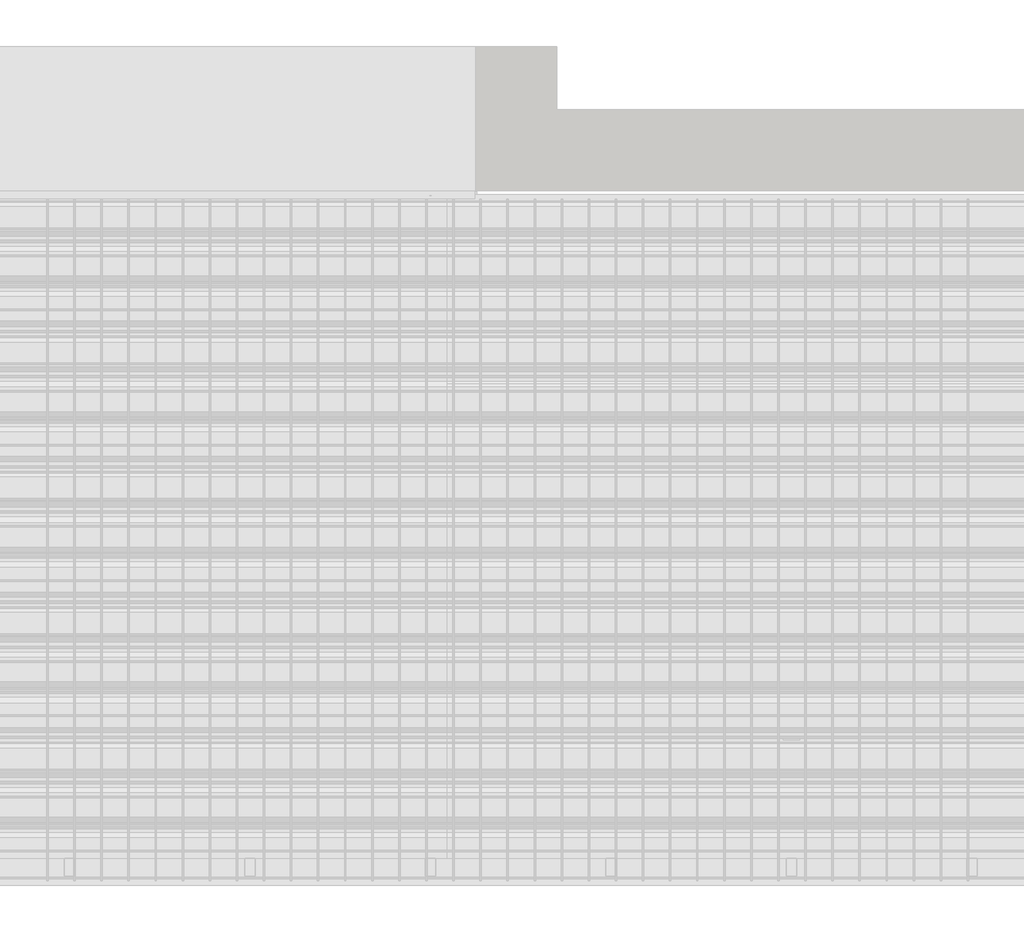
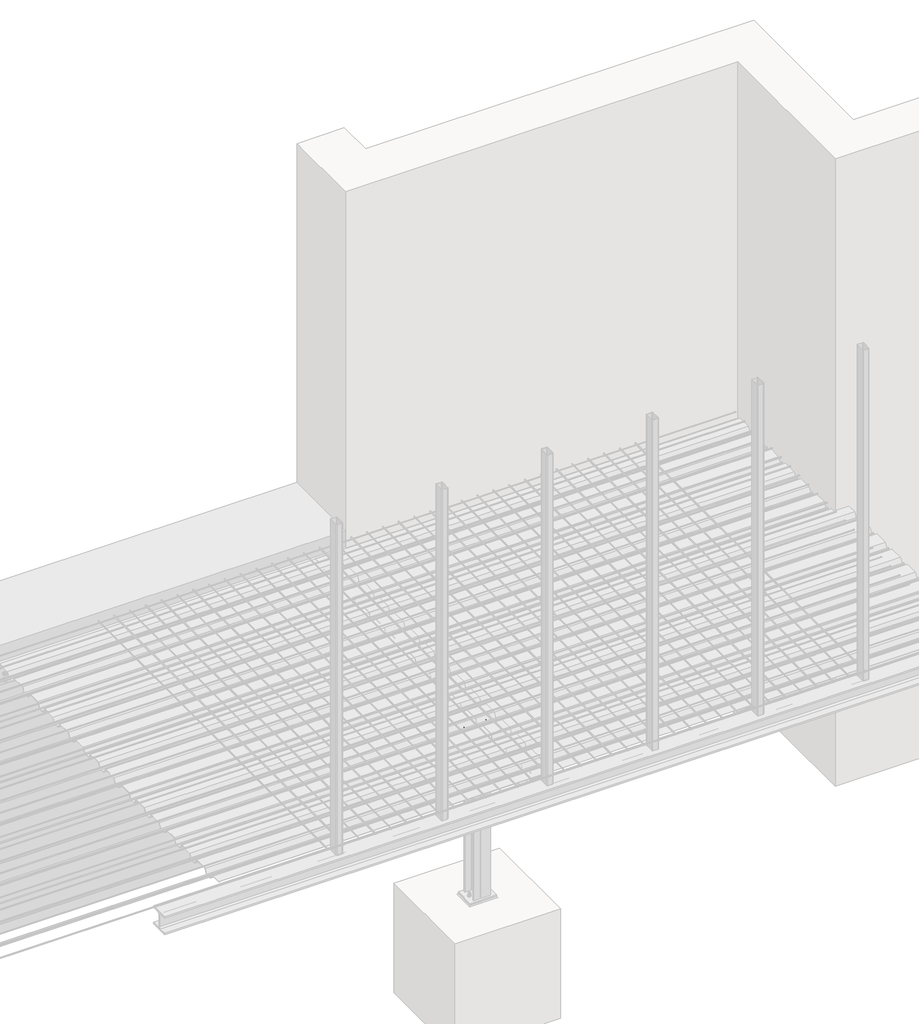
# One storey, part 31 of 36: 3 assemblies.
"""IFC4 building model written with IfcOpenShell, lengths in millimetres."""

from ifc_helpers import new_model, si_unit, point, frame, frame_2d, origin, place, context, project, spatial, polyline, circle_curve, trimmed, segment, composite_curve, outline, extrude, element, save

model = new_model("IFC4")

# Units and contexts
model_context = context("Model", 3, world=origin())
ifc_project = project(units=[si_unit("LENGTHUNIT", "METRE", prefix="MILLI")], contexts=[model_context])

# Site, building, storey
site = spatial("IfcSite", under=ifc_project)
building = spatial("IfcBuilding", under=site)
storey = spatial("IfcBuildingStorey", under=building, Name="Základy", Elevation=-1200.0)

# Assemblies
placement = place(None, origin())
element("IfcElementAssembly", 1, at=placement, inside=storey, context=model_context, shape_type="SweptSolid", body=[
    extrude(outline(composite_curve([segment(polyline([(12073.6, 60.0), (12026.4, 60.0)]), True, "CONTINUOUS"), segment(trimmed(circle_curve(frame_2d((12026.4, 66.4)), 6.4), [point((12026.4, 60.0))], [point((12020.0, 66.4))], False, "CARTESIAN"), True, "CONTINUOUS"), segment(polyline([(12020.0, 66.4), (12020.0, 153.6)]), True, "CONTINUOUS"), segment(trimmed(circle_curve(frame_2d((12026.4, 153.6)), 6.4), [point((12020.0, 153.6))], [point((12026.4, 160.0))], False, "CARTESIAN"), True, "CONTINUOUS"), segment(polyline([(12026.4, 160.0), (12073.6, 160.0)]), True, "CONTINUOUS"), segment(trimmed(circle_curve(frame_2d((12073.6, 153.6)), 6.4), [point((12073.6, 160.0))], [point((12080.0, 153.6))], False, "CARTESIAN"), True, "CONTINUOUS"), segment(polyline([(12080.0, 153.6), (12080.0, 66.4)]), True, "CONTINUOUS"), segment(trimmed(circle_curve(frame_2d((12073.6, 66.4)), 6.4), [point((12080.0, 66.4))], [point((12073.6, 60.0))], False, "CARTESIAN"), True, "CONTINUOUS")], self_intersect=False), holes=[composite_curve([segment(trimmed(circle_curve(frame_2d((12073.6, 66.4)), 3.2), [point((12073.6, 63.2))], [point((12076.8, 66.4))], True, "CARTESIAN"), True, "CONTINUOUS"), segment(polyline([(12076.8, 66.4), (12076.8, 153.6)]), True, "CONTINUOUS"), segment(trimmed(circle_curve(frame_2d((12073.6, 153.6)), 3.2), [point((12076.8, 153.6))], [point((12073.6, 156.8))], True, "CARTESIAN"), True, "CONTINUOUS"), segment(polyline([(12073.6, 156.8), (12026.4, 156.8)]), True, "CONTINUOUS"), segment(trimmed(circle_curve(frame_2d((12026.4, 153.6)), 3.2), [point((12026.4, 156.8))], [point((12023.2, 153.6))], True, "CARTESIAN"), True, "CONTINUOUS"), segment(polyline([(12023.2, 153.6), (12023.2, 66.4)]), True, "CONTINUOUS"), segment(trimmed(circle_curve(frame_2d((12026.4, 66.4)), 3.2), [point((12023.2, 66.4))], [point((12026.4, 63.2))], True, "CARTESIAN"), True, "CONTINUOUS"), segment(polyline([(12026.4, 63.2), (12073.6, 63.2)]), True, "CONTINUOUS")], self_intersect=False)]), frame((0.0, 0.0, -160.0), z_axis=(0.0, 0.0, 1.0), x_axis=(1.0, 0.0, 0.0)), (0.0, 0.0, 1.0), 3320.0),
])
element("IfcElementAssembly", 2, at=placement, inside=storey, context=model_context, shape_type="SweptSolid", body=[
    extrude(outline(composite_curve([segment(polyline([(13073.6, 60.0), (13026.4, 60.0)]), True, "CONTINUOUS"), segment(trimmed(circle_curve(frame_2d((13026.4, 66.4)), 6.4), [point((13026.4, 60.0))], [point((13020.0, 66.4))], False, "CARTESIAN"), True, "CONTINUOUS"), segment(polyline([(13020.0, 66.4), (13020.0, 153.6)]), True, "CONTINUOUS"), segment(trimmed(circle_curve(frame_2d((13026.4, 153.6)), 6.4), [point((13020.0, 153.6))], [point((13026.4, 160.0))], False, "CARTESIAN"), True, "CONTINUOUS"), segment(polyline([(13026.4, 160.0), (13073.6, 160.0)]), True, "CONTINUOUS"), segment(trimmed(circle_curve(frame_2d((13073.6, 153.6)), 6.4), [point((13073.6, 160.0))], [point((13080.0, 153.6))], False, "CARTESIAN"), True, "CONTINUOUS"), segment(polyline([(13080.0, 153.6), (13080.0, 66.4)]), True, "CONTINUOUS"), segment(trimmed(circle_curve(frame_2d((13073.6, 66.4)), 6.4), [point((13080.0, 66.4))], [point((13073.6, 60.0))], False, "CARTESIAN"), True, "CONTINUOUS")], self_intersect=False), holes=[composite_curve([segment(trimmed(circle_curve(frame_2d((13073.6, 66.4)), 3.2), [point((13073.6, 63.2))], [point((13076.8, 66.4))], True, "CARTESIAN"), True, "CONTINUOUS"), segment(polyline([(13076.8, 66.4), (13076.8, 153.6)]), True, "CONTINUOUS"), segment(trimmed(circle_curve(frame_2d((13073.6, 153.6)), 3.2), [point((13076.8, 153.6))], [point((13073.6, 156.8))], True, "CARTESIAN"), True, "CONTINUOUS"), segment(polyline([(13073.6, 156.8), (13026.4, 156.8)]), True, "CONTINUOUS"), segment(trimmed(circle_curve(frame_2d((13026.4, 153.6)), 3.2), [point((13026.4, 156.8))], [point((13023.2, 153.6))], True, "CARTESIAN"), True, "CONTINUOUS"), segment(polyline([(13023.2, 153.6), (13023.2, 66.4)]), True, "CONTINUOUS"), segment(trimmed(circle_curve(frame_2d((13026.4, 66.4)), 3.2), [point((13023.2, 66.4))], [point((13026.4, 63.2))], True, "CARTESIAN"), True, "CONTINUOUS"), segment(polyline([(13026.4, 63.2), (13073.6, 63.2)]), True, "CONTINUOUS")], self_intersect=False)]), frame((0.0, 0.0, -160.0), z_axis=(0.0, 0.0, 1.0), x_axis=(1.0, 0.0, 0.0)), (0.0, 0.0, 1.0), 3320.0),
])
element("IfcElementAssembly", 3, at=placement, inside=storey, context=model_context, shape_type="SweptSolid", body=[
    extrude(outline(composite_curve([segment(polyline([(-340.0, 12140.0), (-326.0, 12140.0), (-326.0, 12069.25)]), True, "CONTINUOUS"), segment(trimmed(circle_curve(frame_2d((-311.0, 12069.25)), 15.0), [point((-326.0, 12069.25))], [point((-311.0, 12054.25))], True, "CARTESIAN"), True, "CONTINUOUS"), segment(polyline([(-311.0, 12054.25), (-189.0, 12054.25)]), True, "CONTINUOUS"), segment(trimmed(circle_curve(frame_2d((-189.0, 12069.25)), 15.0), [point((-189.0, 12054.25))], [point((-174.0, 12069.25))], True, "CARTESIAN"), True, "CONTINUOUS"), segment(polyline([(-174.0, 12069.25), (-174.0, 12140.0), (-160.0, 12140.0), (-160.0, 11960.0), (-174.0, 11960.0), (-174.0, 12030.75)]), True, "CONTINUOUS"), segment(trimmed(circle_curve(frame_2d((-189.0, 12030.75)), 15.0), [point((-174.0, 12030.75))], [point((-189.0, 12045.75))], True, "CARTESIAN"), True, "CONTINUOUS"), segment(polyline([(-189.0, 12045.75), (-311.0, 12045.75)]), True, "CONTINUOUS"), segment(trimmed(circle_curve(frame_2d((-311.0, 12030.75)), 15.0), [point((-311.0, 12045.75))], [point((-326.0, 12030.75))], True, "CARTESIAN"), True, "CONTINUOUS"), segment(polyline([(-326.0, 12030.75), (-326.0, 11960.0), (-340.0, 11960.0), (-340.0, 12140.0)]), True, "CONTINUOUS")], self_intersect=False)), frame((0.0, 210.0, 0.0), z_axis=(0.0, 1.0, 0.0), x_axis=(0.0, 0.0, 1.0)), (0.0, 0.0, 1.0), 3557.0),
    extrude(outline(polyline([(11960.0, 3775.0), (12140.0, 3775.0), (12140.0, 3767.0), (11960.0, 3767.0), (11960.0, 3775.0)])), frame((0.0, 0.0, -316.0), z_axis=(0.0, 0.0, 1.0), x_axis=(1.0, 0.0, 0.0)), (0.0, 0.0, 1.0), 132.0),
    extrude(outline(polyline([(11950.0, 1200.0), (11950.0, 1320.0), (11960.0, 1320.0), (11960.0, 1200.0), (11950.0, 1200.0)])), frame((0.0, 0.0, -332.0), z_axis=(0.0, 0.0, 1.0), x_axis=(1.0, 0.0, 0.0)), (0.0, 0.0, 1.0), 164.0),
    extrude(outline(polyline([(12140.0, 1170.0), (12140.0, 1350.0), (12150.0, 1350.0), (12150.0, 1170.0), (12140.0, 1170.0)])), frame((0.0, 0.0, -332.0), z_axis=(0.0, 0.0, 1.0), x_axis=(1.0, 0.0, 0.0)), (0.0, 0.0, 1.0), 164.0),
    extrude(outline(composite_curve([segment(polyline([(-174.0, 12140.0), (-174.0, 12079.5)]), True, "CONTINUOUS"), segment(trimmed(circle_curve(frame_2d((-174.0, 12054.5)), 25.0), [point((-174.0, 12079.5))], [point((-199.0, 12054.5))], True, "CARTESIAN"), True, "CONTINUOUS"), segment(polyline([(-199.0, 12054.5), (-301.0, 12054.5)]), True, "CONTINUOUS"), segment(trimmed(circle_curve(frame_2d((-326.0, 12054.5)), 25.0), [point((-301.0, 12054.5))], [point((-326.0, 12079.5))], True, "CARTESIAN"), True, "CONTINUOUS"), segment(polyline([(-326.0, 12079.5), (-326.0, 12140.0), (-174.0, 12140.0)]), True, "CONTINUOUS")], self_intersect=False)), frame((0.0, 1256.0, 0.0), z_axis=(0.0, 1.0, 0.0), x_axis=(0.0, 0.0, 1.0)), (0.0, 0.0, 1.0), 8.0),
    extrude(outline(composite_curve([segment(polyline([(-174.0, 11960.0), (-326.0, 11960.0), (-326.0, 12020.5)]), True, "CONTINUOUS"), segment(trimmed(circle_curve(frame_2d((-326.0, 12045.5)), 25.0), [point((-326.0, 12020.5))], [point((-301.0, 12045.5))], True, "CARTESIAN"), True, "CONTINUOUS"), segment(polyline([(-301.0, 12045.5), (-199.0, 12045.5)]), True, "CONTINUOUS"), segment(trimmed(circle_curve(frame_2d((-174.0, 12045.5)), 25.0), [point((-199.0, 12045.5))], [point((-174.0, 12020.5))], True, "CARTESIAN"), True, "CONTINUOUS"), segment(polyline([(-174.0, 12020.5), (-174.0, 11960.0)]), True, "CONTINUOUS")], self_intersect=False)), frame((0.0, 1256.0, 0.0), z_axis=(0.0, 1.0, 0.0), x_axis=(0.0, 0.0, 1.0)), (0.0, 0.0, 1.0), 8.0),
    extrude(outline(polyline([(11960.0, 210.0), (12140.0, 210.0), (12140.0, 200.0), (11960.0, 200.0), (11960.0, 210.0)])), frame((0.0, 0.0, -332.0), z_axis=(0.0, 0.0, 1.0), x_axis=(1.0, 0.0, 0.0)), (0.0, 0.0, 1.0), 164.0),
    extrude(outline(composite_curve([segment(trimmed(circle_curve(frame_2d((1230.0, -225.0)), 6.5), [point((1230.0, -231.5))], [point((1230.0, -218.5))], False, "CARTESIAN"), True, "CONTINUOUS"), segment(trimmed(circle_curve(frame_2d((1230.0, -225.0)), 6.5), [point((1230.0, -218.5))], [point((1230.0, -231.5))], False, "CARTESIAN"), True, "CONTINUOUS")], self_intersect=False)), frame((11949.9, 0.0, 0.0), z_axis=(1.0, 0.0, 0.0), x_axis=(0.0, 1.0, 0.0)), (0.0, 0.0, 1.0), 10.0),
    extrude(outline(polyline([(1230.0, -235.3923048), (1221.0, -230.1961524), (1221.0, -219.8038476), (1230.0, -214.6076952), (1239.0, -219.8038476), (1239.0, -230.1961524), (1230.0, -235.3923048)])), frame((11962.5, 0.0, 0.0), z_axis=(1.0, 0.0, 0.0), x_axis=(0.0, 1.0, 0.0)), (0.0, 0.0, 1.0), 7.5),
    extrude(outline(composite_curve([segment(trimmed(circle_curve(frame_2d((1230.0, -225.0)), 6.0), [point((1230.0, -231.0))], [point((1230.0, -219.0))], False, "CARTESIAN"), True, "CONTINUOUS"), segment(trimmed(circle_curve(frame_2d((1230.0, -225.0)), 6.0), [point((1230.0, -219.0))], [point((1230.0, -231.0))], False, "CARTESIAN"), True, "CONTINUOUS")], self_intersect=False)), frame((11922.5, 0.0, 0.0), z_axis=(1.0, 0.0, 0.0), x_axis=(0.0, 1.0, 0.0)), (0.0, 0.0, 1.0), 40.0),
    extrude(outline(composite_curve([segment(trimmed(circle_curve(frame_2d((1230.0, -225.0)), 12.0), [point((1230.0, -237.0))], [point((1230.0, -213.0))], False, "CARTESIAN"), True, "CONTINUOUS"), segment(trimmed(circle_curve(frame_2d((1230.0, -225.0)), 12.0), [point((1230.0, -213.0))], [point((1230.0, -237.0))], False, "CARTESIAN"), True, "CONTINUOUS")], self_intersect=False)), frame((11960.0, 0.0, 0.0), z_axis=(1.0, 0.0, 0.0), x_axis=(0.0, 1.0, 0.0)), (0.0, 0.0, 1.0), 2.5),
    extrude(outline(composite_curve([segment(trimmed(circle_curve(frame_2d((1230.0, -225.0)), 12.0), [point((1230.0, -237.0))], [point((1230.0, -213.0))], False, "CARTESIAN"), True, "CONTINUOUS"), segment(trimmed(circle_curve(frame_2d((1230.0, -225.0)), 12.0), [point((1230.0, -213.0))], [point((1230.0, -237.0))], False, "CARTESIAN"), True, "CONTINUOUS")], self_intersect=False)), frame((11937.5, 0.0, 0.0), z_axis=(1.0, 0.0, 0.0), x_axis=(0.0, 1.0, 0.0)), (0.0, 0.0, 1.0), 2.5),
    extrude(outline(polyline([(1230.0, -235.9696551), (1220.5, -230.4848276), (1220.5, -219.5151724), (1230.0, -214.0303449), (1239.5, -219.5151724), (1239.5, -230.4848276), (1230.0, -235.9696551)])), frame((11927.5, 0.0, 0.0), z_axis=(1.0, 0.0, 0.0), x_axis=(0.0, 1.0, 0.0)), (0.0, 0.0, 1.0), 10.0),
    extrude(outline(composite_curve([segment(trimmed(circle_curve(frame_2d((1230.0, -225.0)), 6.5), [point((1230.0, -231.5))], [point((1230.0, -218.5))], False, "CARTESIAN"), True, "CONTINUOUS"), segment(trimmed(circle_curve(frame_2d((1230.0, -225.0)), 6.5), [point((1230.0, -218.5))], [point((1230.0, -231.5))], False, "CARTESIAN"), True, "CONTINUOUS")], self_intersect=False)), frame((11940.0, 0.0, 0.0), z_axis=(1.0, 0.0, 0.0), x_axis=(0.0, 1.0, 0.0)), (0.0, 0.0, 1.0), 10.1),
    extrude(outline(composite_curve([segment(trimmed(circle_curve(frame_2d((1230.0, -275.0)), 6.5), [point((1230.0, -281.5))], [point((1230.0, -268.5))], False, "CARTESIAN"), True, "CONTINUOUS"), segment(trimmed(circle_curve(frame_2d((1230.0, -275.0)), 6.5), [point((1230.0, -268.5))], [point((1230.0, -281.5))], False, "CARTESIAN"), True, "CONTINUOUS")], self_intersect=False)), frame((11949.9, 0.0, 0.0), z_axis=(1.0, 0.0, 0.0), x_axis=(0.0, 1.0, 0.0)), (0.0, 0.0, 1.0), 10.0),
    extrude(outline(polyline([(1230.0, -285.3923048), (1221.0, -280.1961524), (1221.0, -269.8038476), (1230.0, -264.6076952), (1239.0, -269.8038476), (1239.0, -280.1961524), (1230.0, -285.3923048)])), frame((11962.5, 0.0, 0.0), z_axis=(1.0, 0.0, 0.0), x_axis=(0.0, 1.0, 0.0)), (0.0, 0.0, 1.0), 7.5),
    extrude(outline(composite_curve([segment(trimmed(circle_curve(frame_2d((1230.0, -275.0)), 6.0), [point((1230.0, -281.0))], [point((1230.0, -269.0))], False, "CARTESIAN"), True, "CONTINUOUS"), segment(trimmed(circle_curve(frame_2d((1230.0, -275.0)), 6.0), [point((1230.0, -269.0))], [point((1230.0, -281.0))], False, "CARTESIAN"), True, "CONTINUOUS")], self_intersect=False)), frame((11922.5, 0.0, 0.0), z_axis=(1.0, 0.0, 0.0), x_axis=(0.0, 1.0, 0.0)), (0.0, 0.0, 1.0), 40.0),
    extrude(outline(composite_curve([segment(trimmed(circle_curve(frame_2d((1230.0, -275.0)), 12.0), [point((1230.0, -287.0))], [point((1230.0, -263.0))], False, "CARTESIAN"), True, "CONTINUOUS"), segment(trimmed(circle_curve(frame_2d((1230.0, -275.0)), 12.0), [point((1230.0, -263.0))], [point((1230.0, -287.0))], False, "CARTESIAN"), True, "CONTINUOUS")], self_intersect=False)), frame((11960.0, 0.0, 0.0), z_axis=(1.0, 0.0, 0.0), x_axis=(0.0, 1.0, 0.0)), (0.0, 0.0, 1.0), 2.5),
    extrude(outline(composite_curve([segment(trimmed(circle_curve(frame_2d((1230.0, -275.0)), 12.0), [point((1230.0, -287.0))], [point((1230.0, -263.0))], False, "CARTESIAN"), True, "CONTINUOUS"), segment(trimmed(circle_curve(frame_2d((1230.0, -275.0)), 12.0), [point((1230.0, -263.0))], [point((1230.0, -287.0))], False, "CARTESIAN"), True, "CONTINUOUS")], self_intersect=False)), frame((11937.5, 0.0, 0.0), z_axis=(1.0, 0.0, 0.0), x_axis=(0.0, 1.0, 0.0)), (0.0, 0.0, 1.0), 2.5),
    extrude(outline(polyline([(1230.0, -285.9696551), (1220.5, -280.4848276), (1220.5, -269.5151724), (1230.0, -264.0303449), (1239.5, -269.5151724), (1239.5, -280.4848276), (1230.0, -285.9696551)])), frame((11927.5, 0.0, 0.0), z_axis=(1.0, 0.0, 0.0), x_axis=(0.0, 1.0, 0.0)), (0.0, 0.0, 1.0), 10.0),
    extrude(outline(composite_curve([segment(trimmed(circle_curve(frame_2d((1230.0, -275.0)), 6.5), [point((1230.0, -281.5))], [point((1230.0, -268.5))], False, "CARTESIAN"), True, "CONTINUOUS"), segment(trimmed(circle_curve(frame_2d((1230.0, -275.0)), 6.5), [point((1230.0, -268.5))], [point((1230.0, -281.5))], False, "CARTESIAN"), True, "CONTINUOUS")], self_intersect=False)), frame((11940.0, 0.0, 0.0), z_axis=(1.0, 0.0, 0.0), x_axis=(0.0, 1.0, 0.0)), (0.0, 0.0, 1.0), 10.1),
    extrude(outline(composite_curve([segment(trimmed(circle_curve(frame_2d((1290.0, -225.0)), 6.5), [point((1290.0, -231.5))], [point((1290.0, -218.5))], False, "CARTESIAN"), True, "CONTINUOUS"), segment(trimmed(circle_curve(frame_2d((1290.0, -225.0)), 6.5), [point((1290.0, -218.5))], [point((1290.0, -231.5))], False, "CARTESIAN"), True, "CONTINUOUS")], self_intersect=False)), frame((11949.9, 0.0, 0.0), z_axis=(1.0, 0.0, 0.0), x_axis=(0.0, 1.0, 0.0)), (0.0, 0.0, 1.0), 10.0),
    extrude(outline(polyline([(1290.0, -235.3923048), (1281.0, -230.1961524), (1281.0, -219.8038476), (1290.0, -214.6076952), (1299.0, -219.8038476), (1299.0, -230.1961524), (1290.0, -235.3923048)])), frame((11962.5, 0.0, 0.0), z_axis=(1.0, 0.0, 0.0), x_axis=(0.0, 1.0, 0.0)), (0.0, 0.0, 1.0), 7.5),
    extrude(outline(composite_curve([segment(trimmed(circle_curve(frame_2d((1290.0, -225.0)), 6.0), [point((1290.0, -231.0))], [point((1290.0, -219.0))], False, "CARTESIAN"), True, "CONTINUOUS"), segment(trimmed(circle_curve(frame_2d((1290.0, -225.0)), 6.0), [point((1290.0, -219.0))], [point((1290.0, -231.0))], False, "CARTESIAN"), True, "CONTINUOUS")], self_intersect=False)), frame((11922.5, 0.0, 0.0), z_axis=(1.0, 0.0, 0.0), x_axis=(0.0, 1.0, 0.0)), (0.0, 0.0, 1.0), 40.0),
    extrude(outline(composite_curve([segment(trimmed(circle_curve(frame_2d((1290.0, -225.0)), 12.0), [point((1290.0, -237.0))], [point((1290.0, -213.0))], False, "CARTESIAN"), True, "CONTINUOUS"), segment(trimmed(circle_curve(frame_2d((1290.0, -225.0)), 12.0), [point((1290.0, -213.0))], [point((1290.0, -237.0))], False, "CARTESIAN"), True, "CONTINUOUS")], self_intersect=False)), frame((11960.0, 0.0, 0.0), z_axis=(1.0, 0.0, 0.0), x_axis=(0.0, 1.0, 0.0)), (0.0, 0.0, 1.0), 2.5),
    extrude(outline(composite_curve([segment(trimmed(circle_curve(frame_2d((1290.0, -225.0)), 12.0), [point((1290.0, -237.0))], [point((1290.0, -213.0))], False, "CARTESIAN"), True, "CONTINUOUS"), segment(trimmed(circle_curve(frame_2d((1290.0, -225.0)), 12.0), [point((1290.0, -213.0))], [point((1290.0, -237.0))], False, "CARTESIAN"), True, "CONTINUOUS")], self_intersect=False)), frame((11937.5, 0.0, 0.0), z_axis=(1.0, 0.0, 0.0), x_axis=(0.0, 1.0, 0.0)), (0.0, 0.0, 1.0), 2.5),
    extrude(outline(polyline([(1290.0, -235.9696551), (1280.5, -230.4848276), (1280.5, -219.5151724), (1290.0, -214.0303449), (1299.5, -219.5151724), (1299.5, -230.4848276), (1290.0, -235.9696551)])), frame((11927.5, 0.0, 0.0), z_axis=(1.0, 0.0, 0.0), x_axis=(0.0, 1.0, 0.0)), (0.0, 0.0, 1.0), 10.0),
    extrude(outline(composite_curve([segment(trimmed(circle_curve(frame_2d((1290.0, -225.0)), 6.5), [point((1290.0, -231.5))], [point((1290.0, -218.5))], False, "CARTESIAN"), True, "CONTINUOUS"), segment(trimmed(circle_curve(frame_2d((1290.0, -225.0)), 6.5), [point((1290.0, -218.5))], [point((1290.0, -231.5))], False, "CARTESIAN"), True, "CONTINUOUS")], self_intersect=False)), frame((11940.0, 0.0, 0.0), z_axis=(1.0, 0.0, 0.0), x_axis=(0.0, 1.0, 0.0)), (0.0, 0.0, 1.0), 10.1),
    extrude(outline(composite_curve([segment(trimmed(circle_curve(frame_2d((1290.0, -275.0)), 6.5), [point((1290.0, -281.5))], [point((1290.0, -268.5))], False, "CARTESIAN"), True, "CONTINUOUS"), segment(trimmed(circle_curve(frame_2d((1290.0, -275.0)), 6.5), [point((1290.0, -268.5))], [point((1290.0, -281.5))], False, "CARTESIAN"), True, "CONTINUOUS")], self_intersect=False)), frame((11949.9, 0.0, 0.0), z_axis=(1.0, 0.0, 0.0), x_axis=(0.0, 1.0, 0.0)), (0.0, 0.0, 1.0), 10.0),
    extrude(outline(polyline([(1290.0, -285.3923048), (1281.0, -280.1961524), (1281.0, -269.8038476), (1290.0, -264.6076952), (1299.0, -269.8038476), (1299.0, -280.1961524), (1290.0, -285.3923048)])), frame((11962.5, 0.0, 0.0), z_axis=(1.0, 0.0, 0.0), x_axis=(0.0, 1.0, 0.0)), (0.0, 0.0, 1.0), 7.5),
    extrude(outline(composite_curve([segment(trimmed(circle_curve(frame_2d((1290.0, -275.0)), 6.0), [point((1290.0, -281.0))], [point((1290.0, -269.0))], False, "CARTESIAN"), True, "CONTINUOUS"), segment(trimmed(circle_curve(frame_2d((1290.0, -275.0)), 6.0), [point((1290.0, -269.0))], [point((1290.0, -281.0))], False, "CARTESIAN"), True, "CONTINUOUS")], self_intersect=False)), frame((11922.5, 0.0, 0.0), z_axis=(1.0, 0.0, 0.0), x_axis=(0.0, 1.0, 0.0)), (0.0, 0.0, 1.0), 40.0),
    extrude(outline(composite_curve([segment(trimmed(circle_curve(frame_2d((1290.0, -275.0)), 12.0), [point((1290.0, -287.0))], [point((1290.0, -263.0))], False, "CARTESIAN"), True, "CONTINUOUS"), segment(trimmed(circle_curve(frame_2d((1290.0, -275.0)), 12.0), [point((1290.0, -263.0))], [point((1290.0, -287.0))], False, "CARTESIAN"), True, "CONTINUOUS")], self_intersect=False)), frame((11960.0, 0.0, 0.0), z_axis=(1.0, 0.0, 0.0), x_axis=(0.0, 1.0, 0.0)), (0.0, 0.0, 1.0), 2.5),
    extrude(outline(composite_curve([segment(trimmed(circle_curve(frame_2d((1290.0, -275.0)), 12.0), [point((1290.0, -287.0))], [point((1290.0, -263.0))], False, "CARTESIAN"), True, "CONTINUOUS"), segment(trimmed(circle_curve(frame_2d((1290.0, -275.0)), 12.0), [point((1290.0, -263.0))], [point((1290.0, -287.0))], False, "CARTESIAN"), True, "CONTINUOUS")], self_intersect=False)), frame((11937.5, 0.0, 0.0), z_axis=(1.0, 0.0, 0.0), x_axis=(0.0, 1.0, 0.0)), (0.0, 0.0, 1.0), 2.5),
    extrude(outline(polyline([(1290.0, -285.9696551), (1280.5, -280.4848276), (1280.5, -269.5151724), (1290.0, -264.0303449), (1299.5, -269.5151724), (1299.5, -280.4848276), (1290.0, -285.9696551)])), frame((11927.5, 0.0, 0.0), z_axis=(1.0, 0.0, 0.0), x_axis=(0.0, 1.0, 0.0)), (0.0, 0.0, 1.0), 10.0),
    extrude(outline(composite_curve([segment(trimmed(circle_curve(frame_2d((1290.0, -275.0)), 6.5), [point((1290.0, -281.5))], [point((1290.0, -268.5))], False, "CARTESIAN"), True, "CONTINUOUS"), segment(trimmed(circle_curve(frame_2d((1290.0, -275.0)), 6.5), [point((1290.0, -268.5))], [point((1290.0, -281.5))], False, "CARTESIAN"), True, "CONTINUOUS")], self_intersect=False)), frame((11940.0, 0.0, 0.0), z_axis=(1.0, 0.0, 0.0), x_axis=(0.0, 1.0, 0.0)), (0.0, 0.0, 1.0), 10.1),
    extrude(outline(composite_curve([segment(trimmed(circle_curve(frame_2d((1305.0, -210.0)), 8.5), [point((1305.0, -218.5))], [point((1305.0, -201.5))], False, "CARTESIAN"), True, "CONTINUOUS"), segment(trimmed(circle_curve(frame_2d((1305.0, -210.0)), 8.5), [point((1305.0, -201.5))], [point((1305.0, -218.5))], False, "CARTESIAN"), True, "CONTINUOUS")], self_intersect=False)), frame((12140.1, 0.0, 0.0), z_axis=(1.0, 0.0, 0.0), x_axis=(0.0, 1.0, 0.0)), (0.0, 0.0, 1.0), 10.0),
    extrude(outline(polyline([(1305.0, -223.8564065), (1293.0, -216.9282032), (1293.0, -203.0717968), (1305.0, -196.1435935), (1317.0, -203.0717968), (1317.0, -216.9282032), (1305.0, -223.8564065)])), frame((12127.0, 0.0, 0.0), z_axis=(1.0, 0.0, 0.0), x_axis=(0.0, 1.0, 0.0)), (0.0, 0.0, 1.0), 10.0),
    extrude(outline(composite_curve([segment(trimmed(circle_curve(frame_2d((1305.0, -210.0)), 8.0), [point((1305.0, -218.0))], [point((1305.0, -202.0))], False, "CARTESIAN"), True, "CONTINUOUS"), segment(trimmed(circle_curve(frame_2d((1305.0, -210.0)), 8.0), [point((1305.0, -202.0))], [point((1305.0, -218.0))], False, "CARTESIAN"), True, "CONTINUOUS")], self_intersect=False)), frame((12137.0, 0.0, 0.0), z_axis=(1.0, 0.0, 0.0), x_axis=(0.0, 1.0, 0.0)), (0.0, 0.0, 1.0), 45.0),
    extrude(outline(composite_curve([segment(trimmed(circle_curve(frame_2d((1305.0, -210.0)), 15.0), [point((1305.0, -225.0))], [point((1305.0, -195.0))], False, "CARTESIAN"), True, "CONTINUOUS"), segment(trimmed(circle_curve(frame_2d((1305.0, -210.0)), 15.0), [point((1305.0, -195.0))], [point((1305.0, -225.0))], False, "CARTESIAN"), True, "CONTINUOUS")], self_intersect=False)), frame((12137.0, 0.0, 0.0), z_axis=(1.0, 0.0, 0.0), x_axis=(0.0, 1.0, 0.0)), (0.0, 0.0, 1.0), 3.0),
    extrude(outline(composite_curve([segment(trimmed(circle_curve(frame_2d((1305.0, -210.0)), 15.0), [point((1305.0, -225.0))], [point((1305.0, -195.0))], False, "CARTESIAN"), True, "CONTINUOUS"), segment(trimmed(circle_curve(frame_2d((1305.0, -210.0)), 15.0), [point((1305.0, -195.0))], [point((1305.0, -225.0))], False, "CARTESIAN"), True, "CONTINUOUS")], self_intersect=False)), frame((12160.0, 0.0, 0.0), z_axis=(1.0, 0.0, 0.0), x_axis=(0.0, 1.0, 0.0)), (0.0, 0.0, 1.0), 3.0),
    extrude(outline(polyline([(1305.0, -225.4441197), (1291.625, -217.7220599), (1291.625, -202.2779401), (1305.0, -194.5558803), (1318.375, -202.2779401), (1318.375, -217.7220599), (1305.0, -225.4441197)])), frame((12163.0, 0.0, 0.0), z_axis=(1.0, 0.0, 0.0), x_axis=(0.0, 1.0, 0.0)), (0.0, 0.0, 1.0), 13.0),
    extrude(outline(composite_curve([segment(trimmed(circle_curve(frame_2d((1305.0, -210.0)), 8.5), [point((1305.0, -218.5))], [point((1305.0, -201.5))], False, "CARTESIAN"), True, "CONTINUOUS"), segment(trimmed(circle_curve(frame_2d((1305.0, -210.0)), 8.5), [point((1305.0, -201.5))], [point((1305.0, -218.5))], False, "CARTESIAN"), True, "CONTINUOUS")], self_intersect=False)), frame((12149.9, 0.0, 0.0), z_axis=(1.0, 0.0, 0.0), x_axis=(0.0, 1.0, 0.0)), (0.0, 0.0, 1.0), 10.1),
    extrude(outline(composite_curve([segment(trimmed(circle_curve(frame_2d((1305.0, -290.0)), 8.5), [point((1305.0, -298.5))], [point((1305.0, -281.5))], False, "CARTESIAN"), True, "CONTINUOUS"), segment(trimmed(circle_curve(frame_2d((1305.0, -290.0)), 8.5), [point((1305.0, -281.5))], [point((1305.0, -298.5))], False, "CARTESIAN"), True, "CONTINUOUS")], self_intersect=False)), frame((12140.1, 0.0, 0.0), z_axis=(1.0, 0.0, 0.0), x_axis=(0.0, 1.0, 0.0)), (0.0, 0.0, 1.0), 10.0),
    extrude(outline(polyline([(1305.0, -303.8564065), (1293.0, -296.9282032), (1293.0, -283.0717968), (1305.0, -276.1435935), (1317.0, -283.0717968), (1317.0, -296.9282032), (1305.0, -303.8564065)])), frame((12127.0, 0.0, 0.0), z_axis=(1.0, 0.0, 0.0), x_axis=(0.0, 1.0, 0.0)), (0.0, 0.0, 1.0), 10.0),
    extrude(outline(composite_curve([segment(trimmed(circle_curve(frame_2d((1305.0, -290.0)), 8.0), [point((1305.0, -298.0))], [point((1305.0, -282.0))], False, "CARTESIAN"), True, "CONTINUOUS"), segment(trimmed(circle_curve(frame_2d((1305.0, -290.0)), 8.0), [point((1305.0, -282.0))], [point((1305.0, -298.0))], False, "CARTESIAN"), True, "CONTINUOUS")], self_intersect=False)), frame((12137.0, 0.0, 0.0), z_axis=(1.0, 0.0, 0.0), x_axis=(0.0, 1.0, 0.0)), (0.0, 0.0, 1.0), 45.0),
    extrude(outline(composite_curve([segment(trimmed(circle_curve(frame_2d((1305.0, -290.0)), 15.0), [point((1305.0, -305.0))], [point((1305.0, -275.0))], False, "CARTESIAN"), True, "CONTINUOUS"), segment(trimmed(circle_curve(frame_2d((1305.0, -290.0)), 15.0), [point((1305.0, -275.0))], [point((1305.0, -305.0))], False, "CARTESIAN"), True, "CONTINUOUS")], self_intersect=False)), frame((12137.0, 0.0, 0.0), z_axis=(1.0, 0.0, 0.0), x_axis=(0.0, 1.0, 0.0)), (0.0, 0.0, 1.0), 3.0),
    extrude(outline(composite_curve([segment(trimmed(circle_curve(frame_2d((1305.0, -290.0)), 15.0), [point((1305.0, -305.0))], [point((1305.0, -275.0))], False, "CARTESIAN"), True, "CONTINUOUS"), segment(trimmed(circle_curve(frame_2d((1305.0, -290.0)), 15.0), [point((1305.0, -275.0))], [point((1305.0, -305.0))], False, "CARTESIAN"), True, "CONTINUOUS")], self_intersect=False)), frame((12160.0, 0.0, 0.0), z_axis=(1.0, 0.0, 0.0), x_axis=(0.0, 1.0, 0.0)), (0.0, 0.0, 1.0), 3.0),
    extrude(outline(polyline([(1305.0, -305.4441197), (1291.625, -297.7220599), (1291.625, -282.2779401), (1305.0, -274.5558803), (1318.375, -282.2779401), (1318.375, -297.7220599), (1305.0, -305.4441197)])), frame((12163.0, 0.0, 0.0), z_axis=(1.0, 0.0, 0.0), x_axis=(0.0, 1.0, 0.0)), (0.0, 0.0, 1.0), 13.0),
    extrude(outline(composite_curve([segment(trimmed(circle_curve(frame_2d((1305.0, -290.0)), 8.5), [point((1305.0, -298.5))], [point((1305.0, -281.5))], False, "CARTESIAN"), True, "CONTINUOUS"), segment(trimmed(circle_curve(frame_2d((1305.0, -290.0)), 8.5), [point((1305.0, -281.5))], [point((1305.0, -298.5))], False, "CARTESIAN"), True, "CONTINUOUS")], self_intersect=False)), frame((12149.9, 0.0, 0.0), z_axis=(1.0, 0.0, 0.0), x_axis=(0.0, 1.0, 0.0)), (0.0, 0.0, 1.0), 10.1),
    extrude(outline(composite_curve([segment(trimmed(circle_curve(frame_2d((1215.0, -210.0)), 8.5), [point((1215.0, -218.5))], [point((1215.0, -201.5))], False, "CARTESIAN"), True, "CONTINUOUS"), segment(trimmed(circle_curve(frame_2d((1215.0, -210.0)), 8.5), [point((1215.0, -201.5))], [point((1215.0, -218.5))], False, "CARTESIAN"), True, "CONTINUOUS")], self_intersect=False)), frame((12140.1, 0.0, 0.0), z_axis=(1.0, 0.0, 0.0), x_axis=(0.0, 1.0, 0.0)), (0.0, 0.0, 1.0), 10.0),
    extrude(outline(polyline([(1215.0, -223.8564065), (1203.0, -216.9282032), (1203.0, -203.0717968), (1215.0, -196.1435935), (1227.0, -203.0717968), (1227.0, -216.9282032), (1215.0, -223.8564065)])), frame((12127.0, 0.0, 0.0), z_axis=(1.0, 0.0, 0.0), x_axis=(0.0, 1.0, 0.0)), (0.0, 0.0, 1.0), 10.0),
    extrude(outline(composite_curve([segment(trimmed(circle_curve(frame_2d((1215.0, -210.0)), 8.0), [point((1215.0, -218.0))], [point((1215.0, -202.0))], False, "CARTESIAN"), True, "CONTINUOUS"), segment(trimmed(circle_curve(frame_2d((1215.0, -210.0)), 8.0), [point((1215.0, -202.0))], [point((1215.0, -218.0))], False, "CARTESIAN"), True, "CONTINUOUS")], self_intersect=False)), frame((12137.0, 0.0, 0.0), z_axis=(1.0, 0.0, 0.0), x_axis=(0.0, 1.0, 0.0)), (0.0, 0.0, 1.0), 45.0),
    extrude(outline(composite_curve([segment(trimmed(circle_curve(frame_2d((1215.0, -210.0)), 15.0), [point((1215.0, -225.0))], [point((1215.0, -195.0))], False, "CARTESIAN"), True, "CONTINUOUS"), segment(trimmed(circle_curve(frame_2d((1215.0, -210.0)), 15.0), [point((1215.0, -195.0))], [point((1215.0, -225.0))], False, "CARTESIAN"), True, "CONTINUOUS")], self_intersect=False)), frame((12137.0, 0.0, 0.0), z_axis=(1.0, 0.0, 0.0), x_axis=(0.0, 1.0, 0.0)), (0.0, 0.0, 1.0), 3.0),
    extrude(outline(composite_curve([segment(trimmed(circle_curve(frame_2d((1215.0, -210.0)), 15.0), [point((1215.0, -225.0))], [point((1215.0, -195.0))], False, "CARTESIAN"), True, "CONTINUOUS"), segment(trimmed(circle_curve(frame_2d((1215.0, -210.0)), 15.0), [point((1215.0, -195.0))], [point((1215.0, -225.0))], False, "CARTESIAN"), True, "CONTINUOUS")], self_intersect=False)), frame((12160.0, 0.0, 0.0), z_axis=(1.0, 0.0, 0.0), x_axis=(0.0, 1.0, 0.0)), (0.0, 0.0, 1.0), 3.0),
    extrude(outline(polyline([(1215.0, -225.4441197), (1201.625, -217.7220599), (1201.625, -202.2779401), (1215.0, -194.5558803), (1228.375, -202.2779401), (1228.375, -217.7220599), (1215.0, -225.4441197)])), frame((12163.0, 0.0, 0.0), z_axis=(1.0, 0.0, 0.0), x_axis=(0.0, 1.0, 0.0)), (0.0, 0.0, 1.0), 13.0),
    extrude(outline(composite_curve([segment(trimmed(circle_curve(frame_2d((1215.0, -210.0)), 8.5), [point((1215.0, -218.5))], [point((1215.0, -201.5))], False, "CARTESIAN"), True, "CONTINUOUS"), segment(trimmed(circle_curve(frame_2d((1215.0, -210.0)), 8.5), [point((1215.0, -201.5))], [point((1215.0, -218.5))], False, "CARTESIAN"), True, "CONTINUOUS")], self_intersect=False)), frame((12149.9, 0.0, 0.0), z_axis=(1.0, 0.0, 0.0), x_axis=(0.0, 1.0, 0.0)), (0.0, 0.0, 1.0), 10.1),
    extrude(outline(composite_curve([segment(trimmed(circle_curve(frame_2d((1215.0, -290.0)), 8.5), [point((1215.0, -298.5))], [point((1215.0, -281.5))], False, "CARTESIAN"), True, "CONTINUOUS"), segment(trimmed(circle_curve(frame_2d((1215.0, -290.0)), 8.5), [point((1215.0, -281.5))], [point((1215.0, -298.5))], False, "CARTESIAN"), True, "CONTINUOUS")], self_intersect=False)), frame((12140.1, 0.0, 0.0), z_axis=(1.0, 0.0, 0.0), x_axis=(0.0, 1.0, 0.0)), (0.0, 0.0, 1.0), 10.0),
    extrude(outline(polyline([(1215.0, -303.8564065), (1203.0, -296.9282032), (1203.0, -283.0717968), (1215.0, -276.1435935), (1227.0, -283.0717968), (1227.0, -296.9282032), (1215.0, -303.8564065)])), frame((12127.0, 0.0, 0.0), z_axis=(1.0, 0.0, 0.0), x_axis=(0.0, 1.0, 0.0)), (0.0, 0.0, 1.0), 10.0),
    extrude(outline(composite_curve([segment(trimmed(circle_curve(frame_2d((1215.0, -290.0)), 8.0), [point((1215.0, -298.0))], [point((1215.0, -282.0))], False, "CARTESIAN"), True, "CONTINUOUS"), segment(trimmed(circle_curve(frame_2d((1215.0, -290.0)), 8.0), [point((1215.0, -282.0))], [point((1215.0, -298.0))], False, "CARTESIAN"), True, "CONTINUOUS")], self_intersect=False)), frame((12137.0, 0.0, 0.0), z_axis=(1.0, 0.0, 0.0), x_axis=(0.0, 1.0, 0.0)), (0.0, 0.0, 1.0), 45.0),
    extrude(outline(composite_curve([segment(trimmed(circle_curve(frame_2d((1215.0, -290.0)), 15.0), [point((1215.0, -305.0))], [point((1215.0, -275.0))], False, "CARTESIAN"), True, "CONTINUOUS"), segment(trimmed(circle_curve(frame_2d((1215.0, -290.0)), 15.0), [point((1215.0, -275.0))], [point((1215.0, -305.0))], False, "CARTESIAN"), True, "CONTINUOUS")], self_intersect=False)), frame((12137.0, 0.0, 0.0), z_axis=(1.0, 0.0, 0.0), x_axis=(0.0, 1.0, 0.0)), (0.0, 0.0, 1.0), 3.0),
    extrude(outline(composite_curve([segment(trimmed(circle_curve(frame_2d((1215.0, -290.0)), 15.0), [point((1215.0, -305.0))], [point((1215.0, -275.0))], False, "CARTESIAN"), True, "CONTINUOUS"), segment(trimmed(circle_curve(frame_2d((1215.0, -290.0)), 15.0), [point((1215.0, -275.0))], [point((1215.0, -305.0))], False, "CARTESIAN"), True, "CONTINUOUS")], self_intersect=False)), frame((12160.0, 0.0, 0.0), z_axis=(1.0, 0.0, 0.0), x_axis=(0.0, 1.0, 0.0)), (0.0, 0.0, 1.0), 3.0),
    extrude(outline(polyline([(1215.0, -305.4441197), (1201.625, -297.7220599), (1201.625, -282.2779401), (1215.0, -274.5558803), (1228.375, -282.2779401), (1228.375, -297.7220599), (1215.0, -305.4441197)])), frame((12163.0, 0.0, 0.0), z_axis=(1.0, 0.0, 0.0), x_axis=(0.0, 1.0, 0.0)), (0.0, 0.0, 1.0), 13.0),
    extrude(outline(composite_curve([segment(trimmed(circle_curve(frame_2d((1215.0, -290.0)), 8.5), [point((1215.0, -298.5))], [point((1215.0, -281.5))], False, "CARTESIAN"), True, "CONTINUOUS"), segment(trimmed(circle_curve(frame_2d((1215.0, -290.0)), 8.5), [point((1215.0, -281.5))], [point((1215.0, -298.5))], False, "CARTESIAN"), True, "CONTINUOUS")], self_intersect=False)), frame((12149.9, 0.0, 0.0), z_axis=(1.0, 0.0, 0.0), x_axis=(0.0, 1.0, 0.0)), (0.0, 0.0, 1.0), 10.1),
])

save(model, "model.ifc")
